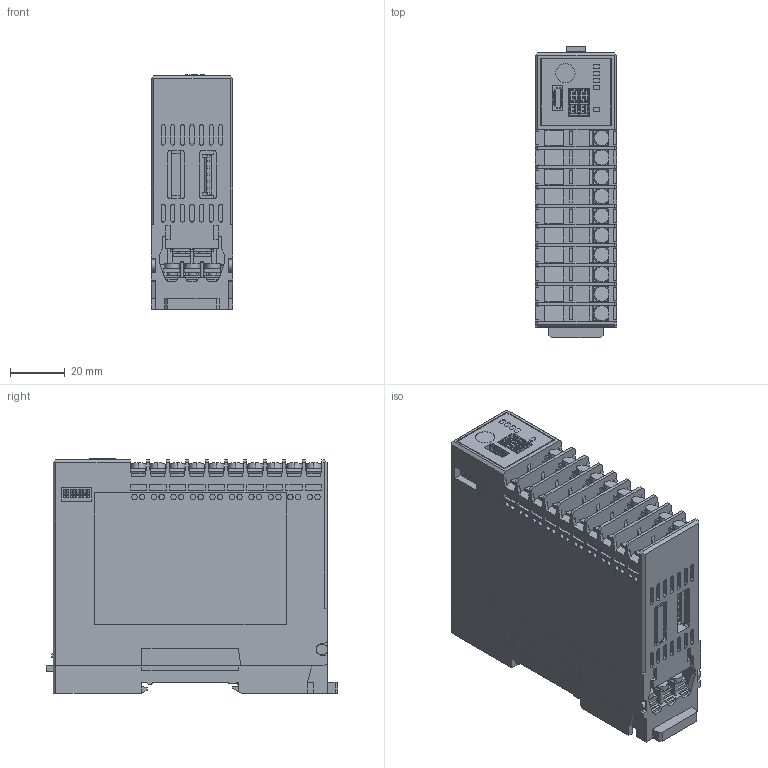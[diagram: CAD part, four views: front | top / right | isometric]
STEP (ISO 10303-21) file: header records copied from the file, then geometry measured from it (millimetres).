
FILE_DESCRIPTION (( 'STEP AP203' ), '1' );
FILE_NAME ('QTC1-2PT_230515.STEP', '2023-05-15T07:15:04', ( '' ), ( '' ), 'SwSTEP 2.0', 'SolidWorks 2022', '' );
FILE_SCHEMA (( 'CONFIG_CONTROL_DESIGN' ));
Length unit declared in the file: millimetre
Products named in the file (1): QTC1-2PT_230515
Bounding box: 29.8 x 106.3 x 85.6 mm (x, y, z)
Volume: 224079.5 mm3; surface area: 46420.5 mm2
Topology: 11 solids, 11 shells, 1947 faces, 5062 edges, 3346 vertices
Faces by surface type: plane 1568, cylinder 375, torus 4
Entity records: 58959 total; most frequent: CARTESIAN_POINT 10452, ORIENTED_EDGE 10124, DIRECTION 9624, EDGE_CURVE 5062, VECTOR 4332, LINE 4332, VERTEX_POINT 3346, AXIS2_PLACEMENT_3D 2646
